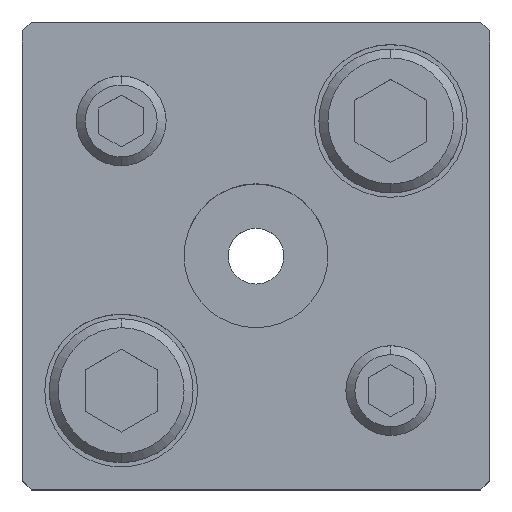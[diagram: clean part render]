
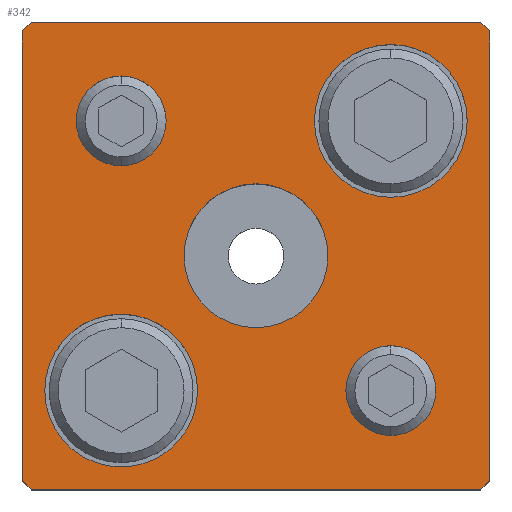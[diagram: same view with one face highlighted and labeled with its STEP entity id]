
A CAD part, top view. The second image highlights one B-rep face of the part: STEP entity #342.
In plain terms, the highlighted planar face has unit normal (0, 0, 1).
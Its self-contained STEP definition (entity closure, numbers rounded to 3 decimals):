
#119=PLANE('',#2798);
#192=FACE_BOUND('',#669,.T.);
#193=FACE_BOUND('',#670,.T.);
#194=FACE_BOUND('',#671,.T.);
#195=FACE_BOUND('',#672,.T.);
#196=FACE_BOUND('',#673,.T.);
#197=FACE_BOUND('',#674,.T.);
#342=ADVANCED_FACE('',(#192,#193,#194,#195,#196,#197),#119,.T.);
#669=EDGE_LOOP('',(#1119,#1120,#1121,#1122,#1123,#1124,#1125,#1126));
#670=EDGE_LOOP('',(#1127,#1128));
#671=EDGE_LOOP('',(#1129,#1130));
#672=EDGE_LOOP('',(#1131,#1132));
#673=EDGE_LOOP('',(#1133,#1134));
#674=EDGE_LOOP('',(#1135,#1136));
#857=CIRCLE('',#2762,5.);
#859=CIRCLE('',#2765,5.);
#861=CIRCLE('',#2768,5.);
#863=CIRCLE('',#2771,5.);
#877=CIRCLE('',#2792,8.5);
#878=CIRCLE('',#2793,8.5);
#879=CIRCLE('',#2794,8.5);
#880=CIRCLE('',#2795,8.5);
#881=CIRCLE('',#2796,8.);
#882=CIRCLE('',#2797,8.);
#1119=ORIENTED_EDGE('',*,*,#1999,.T.);
#1120=ORIENTED_EDGE('',*,*,#2000,.T.);
#1121=ORIENTED_EDGE('',*,*,#2001,.T.);
#1122=ORIENTED_EDGE('',*,*,#2002,.T.);
#1123=ORIENTED_EDGE('',*,*,#2003,.T.);
#1124=ORIENTED_EDGE('',*,*,#2004,.T.);
#1125=ORIENTED_EDGE('',*,*,#2005,.T.);
#1126=ORIENTED_EDGE('',*,*,#2006,.T.);
#1127=ORIENTED_EDGE('',*,*,#2007,.F.);
#1128=ORIENTED_EDGE('',*,*,#2008,.F.);
#1129=ORIENTED_EDGE('',*,*,#2009,.F.);
#1130=ORIENTED_EDGE('',*,*,#2010,.F.);
#1131=ORIENTED_EDGE('',*,*,#1979,.F.);
#1132=ORIENTED_EDGE('',*,*,#1975,.F.);
#1133=ORIENTED_EDGE('',*,*,#1973,.F.);
#1134=ORIENTED_EDGE('',*,*,#1969,.F.);
#1135=ORIENTED_EDGE('',*,*,#2011,.T.);
#1136=ORIENTED_EDGE('',*,*,#2012,.T.);
#1715=VERTEX_POINT('',#3983);
#1716=VERTEX_POINT('',#3984);
#1719=VERTEX_POINT('',#3995);
#1720=VERTEX_POINT('',#3996);
#1735=VERTEX_POINT('',#4043);
#1736=VERTEX_POINT('',#4044);
#1737=VERTEX_POINT('',#4046);
#1738=VERTEX_POINT('',#4048);
#1739=VERTEX_POINT('',#4050);
#1740=VERTEX_POINT('',#4052);
#1741=VERTEX_POINT('',#4054);
#1742=VERTEX_POINT('',#4056);
#1743=VERTEX_POINT('',#4059);
#1744=VERTEX_POINT('',#4060);
#1745=VERTEX_POINT('',#4063);
#1746=VERTEX_POINT('',#4064);
#1747=VERTEX_POINT('',#4067);
#1748=VERTEX_POINT('',#4068);
#1969=EDGE_CURVE('',#1715,#1716,#857,.T.);
#1973=EDGE_CURVE('',#1716,#1715,#859,.T.);
#1975=EDGE_CURVE('',#1719,#1720,#861,.T.);
#1979=EDGE_CURVE('',#1720,#1719,#863,.T.);
#1999=EDGE_CURVE('',#1735,#1736,#2297,.T.);
#2000=EDGE_CURVE('',#1736,#1737,#2298,.T.);
#2001=EDGE_CURVE('',#1737,#1738,#2299,.T.);
#2002=EDGE_CURVE('',#1738,#1739,#2300,.T.);
#2003=EDGE_CURVE('',#1739,#1740,#2301,.T.);
#2004=EDGE_CURVE('',#1740,#1741,#2302,.T.);
#2005=EDGE_CURVE('',#1741,#1742,#2303,.T.);
#2006=EDGE_CURVE('',#1742,#1735,#2304,.T.);
#2007=EDGE_CURVE('',#1743,#1744,#877,.T.);
#2008=EDGE_CURVE('',#1744,#1743,#878,.T.);
#2009=EDGE_CURVE('',#1745,#1746,#879,.T.);
#2010=EDGE_CURVE('',#1746,#1745,#880,.T.);
#2011=EDGE_CURVE('',#1747,#1748,#881,.T.);
#2012=EDGE_CURVE('',#1748,#1747,#882,.T.);
#2297=LINE('',#4042,#2513);
#2298=LINE('',#4045,#2514);
#2299=LINE('',#4047,#2515);
#2300=LINE('',#4049,#2516);
#2301=LINE('',#4051,#2517);
#2302=LINE('',#4053,#2518);
#2303=LINE('',#4055,#2519);
#2304=LINE('',#4057,#2520);
#2513=VECTOR('',#3221,1.);
#2514=VECTOR('',#3222,1.);
#2515=VECTOR('',#3223,1.);
#2516=VECTOR('',#3224,1.);
#2517=VECTOR('',#3225,1.);
#2518=VECTOR('',#3226,1.);
#2519=VECTOR('',#3227,1.);
#2520=VECTOR('',#3228,1.);
#2762=AXIS2_PLACEMENT_3D('',#3982,#3151,#3152);
#2765=AXIS2_PLACEMENT_3D('',#3991,#3159,#3160);
#2768=AXIS2_PLACEMENT_3D('',#3994,#3165,#3166);
#2771=AXIS2_PLACEMENT_3D('',#4003,#3173,#3174);
#2792=AXIS2_PLACEMENT_3D('',#4058,#3229,#3230);
#2793=AXIS2_PLACEMENT_3D('',#4061,#3231,#3232);
#2794=AXIS2_PLACEMENT_3D('',#4062,#3233,#3234);
#2795=AXIS2_PLACEMENT_3D('',#4065,#3235,#3236);
#2796=AXIS2_PLACEMENT_3D('',#4066,#3237,#3238);
#2797=AXIS2_PLACEMENT_3D('',#4069,#3239,#3240);
#2798=AXIS2_PLACEMENT_3D('',#4070,#3241,#3242);
#3151=DIRECTION('',(0.,0.,1.));
#3152=DIRECTION('',(1.,0.,0.));
#3159=DIRECTION('',(0.,0.,1.));
#3160=DIRECTION('',(-1.,0.,0.));
#3165=DIRECTION('',(0.,0.,1.));
#3166=DIRECTION('',(1.,0.,0.));
#3173=DIRECTION('',(0.,0.,1.));
#3174=DIRECTION('',(-1.,0.,0.));
#3221=DIRECTION('',(0.,1.,0.));
#3222=DIRECTION('',(-0.707,0.707,0.));
#3223=DIRECTION('',(-1.,0.,0.));
#3224=DIRECTION('',(-0.707,-0.707,0.));
#3225=DIRECTION('',(0.,-1.,0.));
#3226=DIRECTION('',(0.707,-0.707,0.));
#3227=DIRECTION('',(1.,0.,0.));
#3228=DIRECTION('',(0.707,0.707,0.));
#3229=DIRECTION('',(0.,0.,1.));
#3230=DIRECTION('',(1.,0.,0.));
#3231=DIRECTION('',(0.,0.,1.));
#3232=DIRECTION('',(-1.,0.,0.));
#3233=DIRECTION('',(0.,0.,1.));
#3234=DIRECTION('',(1.,0.,0.));
#3235=DIRECTION('',(0.,0.,1.));
#3236=DIRECTION('',(-1.,0.,0.));
#3237=DIRECTION('',(0.,0.,-1.));
#3238=DIRECTION('',(-1.,0.,0.));
#3239=DIRECTION('',(0.,0.,-1.));
#3240=DIRECTION('',(1.,0.,0.));
#3241=DIRECTION('',(0.,0.,1.));
#3242=DIRECTION('',(0.,-1.,0.));
#3982=CARTESIAN_POINT('',(15.,-15.,35.));
#3983=CARTESIAN_POINT('',(15.,-10.,35.));
#3984=CARTESIAN_POINT('',(15.,-20.,35.));
#3991=CARTESIAN_POINT('',(15.,-15.,35.));
#3994=CARTESIAN_POINT('',(-15.,15.,35.));
#3995=CARTESIAN_POINT('',(-15.,20.,35.));
#3996=CARTESIAN_POINT('',(-15.,10.,35.));
#4003=CARTESIAN_POINT('',(-15.,15.,35.));
#4042=CARTESIAN_POINT('',(26.,25.,35.));
#4043=CARTESIAN_POINT('',(26.,-25.,35.));
#4044=CARTESIAN_POINT('',(26.,25.,35.));
#4045=CARTESIAN_POINT('',(25.,26.,35.));
#4046=CARTESIAN_POINT('',(25.,26.,35.));
#4047=CARTESIAN_POINT('',(-25.,26.,35.));
#4048=CARTESIAN_POINT('',(-25.,26.,35.));
#4049=CARTESIAN_POINT('',(-25.,26.,35.));
#4050=CARTESIAN_POINT('',(-26.,25.,35.));
#4051=CARTESIAN_POINT('',(-26.,-25.,35.));
#4052=CARTESIAN_POINT('',(-26.,-25.,35.));
#4053=CARTESIAN_POINT('',(-26.,-25.,35.));
#4054=CARTESIAN_POINT('',(-25.,-26.,35.));
#4055=CARTESIAN_POINT('',(25.,-26.,35.));
#4056=CARTESIAN_POINT('',(25.,-26.,35.));
#4057=CARTESIAN_POINT('',(25.,-26.,35.));
#4058=CARTESIAN_POINT('',(-15.,-15.,35.));
#4059=CARTESIAN_POINT('',(-15.,-6.5,35.));
#4060=CARTESIAN_POINT('',(-15.,-23.5,35.));
#4061=CARTESIAN_POINT('',(-15.,-15.,35.));
#4062=CARTESIAN_POINT('',(15.,15.,35.));
#4063=CARTESIAN_POINT('',(15.,23.5,35.));
#4064=CARTESIAN_POINT('',(15.,6.5,35.));
#4065=CARTESIAN_POINT('',(15.,15.,35.));
#4066=CARTESIAN_POINT('',(0.,0.,35.));
#4067=CARTESIAN_POINT('',(0.,8.,35.));
#4068=CARTESIAN_POINT('',(0.,-8.,35.));
#4069=CARTESIAN_POINT('',(0.,0.,35.));
#4070=CARTESIAN_POINT('',(26.,-25.,35.));
